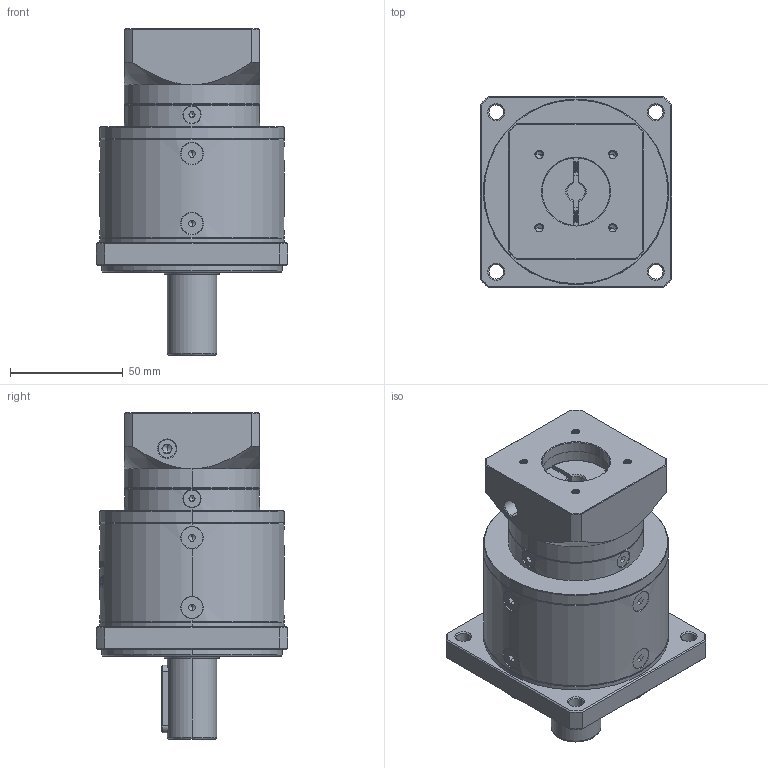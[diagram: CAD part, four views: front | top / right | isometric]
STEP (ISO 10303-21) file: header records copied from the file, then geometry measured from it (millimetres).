
FILE_DESCRIPTION (( 'STEP AP214' ), '1' );
FILE_NAME ('ZF80-D22-L2-8-30-46-M4.step', '2022-05-08T09:26:59', ( '' ), ( 'Microsoft' ), 'SwSTEP 2.0', 'SolidWorks 2016', '' );
FILE_SCHEMA (( 'AUTOMOTIVE_DESIGN' ));
Length unit declared in the file: millimetre
Products named in the file (1): ZF80-D22-L2-8-30-46-M4
Bounding box: 85 x 85 x 145 mm (x, y, z)
Volume: 479012.3 mm3; surface area: 68620.6 mm2
Topology: 18 solids, 18 shells, 2002 faces, 5233 edges, 3327 vertices
Faces by surface type: plane 948, cylinder 393, bspline 328, cone 319, torus 14
Entity records: 105424 total; most frequent: CARTESIAN_POINT 37600, ORIENTED_EDGE 10390, DIRECTION 8294, EDGE_CURVE 5195, VERTEX_POINT 3327, VECTOR 2802, LINE 2802, AXIS2_PLACEMENT_3D 2746
